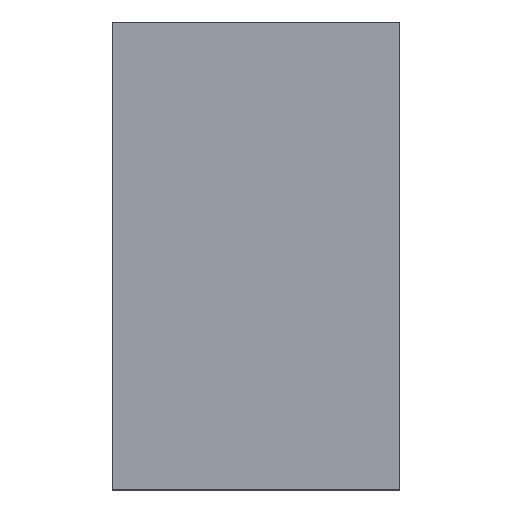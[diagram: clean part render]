
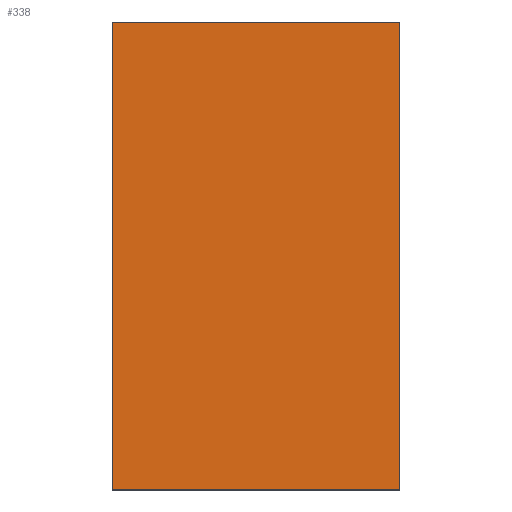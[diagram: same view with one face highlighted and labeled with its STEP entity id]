
A CAD part, top view. The second image highlights one B-rep face of the part: STEP entity #338.
In plain terms, the highlighted planar face has unit normal (0, 0, 1).
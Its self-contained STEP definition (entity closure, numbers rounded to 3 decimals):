
#24 = VERTEX_POINT('',#25);
#25 = CARTESIAN_POINT('',(1300.,-130.,958.));
#32 = PLANE('',#33);
#33 = AXIS2_PLACEMENT_3D('',#34,#35,#36);
#34 = CARTESIAN_POINT('',(1300.,-130.,938.));
#35 = DIRECTION('',(1.,0.,-0.));
#36 = DIRECTION('',(0.,0.,1.));
#44 = PLANE('',#45);
#45 = AXIS2_PLACEMENT_3D('',#46,#47,#48);
#46 = CARTESIAN_POINT('',(1300.,-130.,938.));
#47 = DIRECTION('',(-0.,1.,0.));
#48 = DIRECTION('',(0.,0.,1.));
#85 = VERTEX_POINT('',#86);
#86 = CARTESIAN_POINT('',(1300.,650.,958.));
#100 = PLANE('',#101);
#101 = AXIS2_PLACEMENT_3D('',#102,#103,#104);
#102 = CARTESIAN_POINT('',(1300.,650.,938.));
#103 = DIRECTION('',(-0.,1.,0.));
#104 = DIRECTION('',(0.,0.,1.));
#112 = EDGE_CURVE('',#24,#85,#113,.T.);
#113 = SURFACE_CURVE('',#114,(#118,#125),.PCURVE_S1.);
#114 = LINE('',#115,#116);
#115 = CARTESIAN_POINT('',(1300.,-130.,958.));
#116 = VECTOR('',#117,1.);
#117 = DIRECTION('',(-0.,1.,0.));
#118 = PCURVE('',#32,#119);
#119 = DEFINITIONAL_REPRESENTATION('',(#120),#124);
#120 = LINE('',#121,#122);
#121 = CARTESIAN_POINT('',(20.,0.));
#122 = VECTOR('',#123,1.);
#123 = DIRECTION('',(0.,-1.));
#124 = ( GEOMETRIC_REPRESENTATION_CONTEXT(2) 
PARAMETRIC_REPRESENTATION_CONTEXT() REPRESENTATION_CONTEXT('2D SPACE',''
  ) );
#125 = PCURVE('',#126,#131);
#126 = PLANE('',#127);
#127 = AXIS2_PLACEMENT_3D('',#128,#129,#130);
#128 = CARTESIAN_POINT('',(1300.,-130.,958.));
#129 = DIRECTION('',(0.,0.,1.));
#130 = DIRECTION('',(1.,0.,-0.));
#131 = DEFINITIONAL_REPRESENTATION('',(#132),#136);
#132 = LINE('',#133,#134);
#133 = CARTESIAN_POINT('',(0.,0.));
#134 = VECTOR('',#135,1.);
#135 = DIRECTION('',(0.,1.));
#136 = ( GEOMETRIC_REPRESENTATION_CONTEXT(2) 
PARAMETRIC_REPRESENTATION_CONTEXT() REPRESENTATION_CONTEXT('2D SPACE',''
  ) );
#144 = VERTEX_POINT('',#145);
#145 = CARTESIAN_POINT('',(1780.,-130.,958.));
#152 = PLANE('',#153);
#153 = AXIS2_PLACEMENT_3D('',#154,#155,#156);
#154 = CARTESIAN_POINT('',(1780.,-130.,938.));
#155 = DIRECTION('',(1.,0.,-0.));
#156 = DIRECTION('',(0.,0.,1.));
#195 = VERTEX_POINT('',#196);
#196 = CARTESIAN_POINT('',(1780.,650.,958.));
#217 = EDGE_CURVE('',#144,#195,#218,.T.);
#218 = SURFACE_CURVE('',#219,(#223,#230),.PCURVE_S1.);
#219 = LINE('',#220,#221);
#220 = CARTESIAN_POINT('',(1780.,-130.,958.));
#221 = VECTOR('',#222,1.);
#222 = DIRECTION('',(-0.,1.,0.));
#223 = PCURVE('',#152,#224);
#224 = DEFINITIONAL_REPRESENTATION('',(#225),#229);
#225 = LINE('',#226,#227);
#226 = CARTESIAN_POINT('',(20.,0.));
#227 = VECTOR('',#228,1.);
#228 = DIRECTION('',(0.,-1.));
#229 = ( GEOMETRIC_REPRESENTATION_CONTEXT(2) 
PARAMETRIC_REPRESENTATION_CONTEXT() REPRESENTATION_CONTEXT('2D SPACE',''
  ) );
#230 = PCURVE('',#126,#231);
#231 = DEFINITIONAL_REPRESENTATION('',(#232),#236);
#232 = LINE('',#233,#234);
#233 = CARTESIAN_POINT('',(480.,0.));
#234 = VECTOR('',#235,1.);
#235 = DIRECTION('',(0.,1.));
#236 = ( GEOMETRIC_REPRESENTATION_CONTEXT(2) 
PARAMETRIC_REPRESENTATION_CONTEXT() REPRESENTATION_CONTEXT('2D SPACE',''
  ) );
#263 = EDGE_CURVE('',#24,#144,#264,.T.);
#264 = SURFACE_CURVE('',#265,(#269,#276),.PCURVE_S1.);
#265 = LINE('',#266,#267);
#266 = CARTESIAN_POINT('',(1300.,-130.,958.));
#267 = VECTOR('',#268,1.);
#268 = DIRECTION('',(1.,0.,-0.));
#269 = PCURVE('',#44,#270);
#270 = DEFINITIONAL_REPRESENTATION('',(#271),#275);
#271 = LINE('',#272,#273);
#272 = CARTESIAN_POINT('',(20.,0.));
#273 = VECTOR('',#274,1.);
#274 = DIRECTION('',(0.,1.));
#275 = ( GEOMETRIC_REPRESENTATION_CONTEXT(2) 
PARAMETRIC_REPRESENTATION_CONTEXT() REPRESENTATION_CONTEXT('2D SPACE',''
  ) );
#276 = PCURVE('',#126,#277);
#277 = DEFINITIONAL_REPRESENTATION('',(#278),#282);
#278 = LINE('',#279,#280);
#279 = CARTESIAN_POINT('',(0.,0.));
#280 = VECTOR('',#281,1.);
#281 = DIRECTION('',(1.,0.));
#282 = ( GEOMETRIC_REPRESENTATION_CONTEXT(2) 
PARAMETRIC_REPRESENTATION_CONTEXT() REPRESENTATION_CONTEXT('2D SPACE',''
  ) );
#310 = EDGE_CURVE('',#85,#195,#311,.T.);
#311 = SURFACE_CURVE('',#312,(#316,#323),.PCURVE_S1.);
#312 = LINE('',#313,#314);
#313 = CARTESIAN_POINT('',(1300.,650.,958.));
#314 = VECTOR('',#315,1.);
#315 = DIRECTION('',(1.,0.,-0.));
#316 = PCURVE('',#100,#317);
#317 = DEFINITIONAL_REPRESENTATION('',(#318),#322);
#318 = LINE('',#319,#320);
#319 = CARTESIAN_POINT('',(20.,0.));
#320 = VECTOR('',#321,1.);
#321 = DIRECTION('',(0.,1.));
#322 = ( GEOMETRIC_REPRESENTATION_CONTEXT(2) 
PARAMETRIC_REPRESENTATION_CONTEXT() REPRESENTATION_CONTEXT('2D SPACE',''
  ) );
#323 = PCURVE('',#126,#324);
#324 = DEFINITIONAL_REPRESENTATION('',(#325),#329);
#325 = LINE('',#326,#327);
#326 = CARTESIAN_POINT('',(0.,780.));
#327 = VECTOR('',#328,1.);
#328 = DIRECTION('',(1.,0.));
#329 = ( GEOMETRIC_REPRESENTATION_CONTEXT(2) 
PARAMETRIC_REPRESENTATION_CONTEXT() REPRESENTATION_CONTEXT('2D SPACE',''
  ) );
#338 = ADVANCED_FACE('',(#339),#126,.T.);
#339 = FACE_BOUND('',#340,.T.);
#340 = EDGE_LOOP('',(#341,#342,#343,#344));
#341 = ORIENTED_EDGE('',*,*,#112,.F.);
#342 = ORIENTED_EDGE('',*,*,#263,.T.);
#343 = ORIENTED_EDGE('',*,*,#217,.T.);
#344 = ORIENTED_EDGE('',*,*,#310,.F.);
